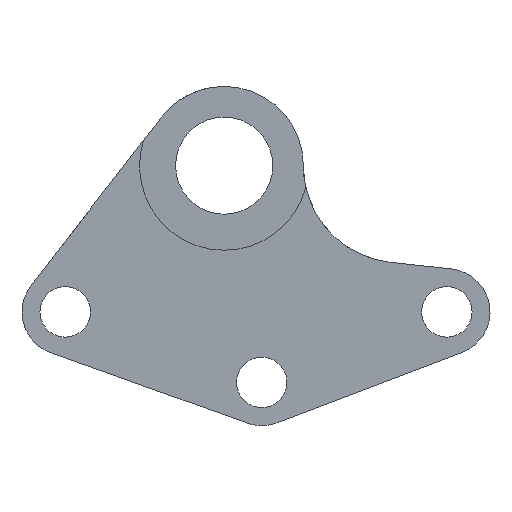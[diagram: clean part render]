
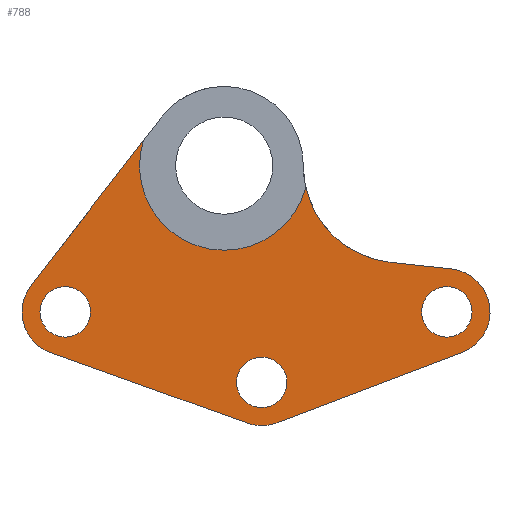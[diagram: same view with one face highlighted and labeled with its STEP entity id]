
A CAD part, front view. The second image highlights one B-rep face of the part: STEP entity #788.
In plain terms, the highlighted planar face has unit normal (0, -1, 0).
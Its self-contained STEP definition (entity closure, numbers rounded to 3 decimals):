
#2 = CARTESIAN_POINT ( 'NONE',  ( 5.224, 0., -30.099 ) ) ;
#7 = ORIENTED_EDGE ( 'NONE', *, *, #460, .F. ) ;
#17 = CARTESIAN_POINT ( 'NONE',  ( -26.817, 0., -16.638 ) ) ;
#23 = DIRECTION ( 'NONE',  ( 0., 1., 0. ) ) ;
#27 = VERTEX_POINT ( 'NONE', #341 ) ;
#28 = CARTESIAN_POINT ( 'NONE',  ( 30.925, 0., -20.314 ) ) ;
#29 = CARTESIAN_POINT ( 'NONE',  ( 24.5, 0., 0. ) ) ;
#31 = CIRCLE ( 'NONE', #698, 3.5 ) ;
#36 = DIRECTION ( 'NONE',  ( 0., 1., 0. ) ) ;
#38 = DIRECTION ( 'NONE',  ( 0.613, 0., 0.79 ) ) ;
#69 = ORIENTED_EDGE ( 'NONE', *, *, #720, .T. ) ;
#72 = CARTESIAN_POINT ( 'NONE',  ( 11.348, 0., -3.046 ) ) ;
#80 = DIRECTION ( 'NONE',  ( 0., 0., 1. ) ) ;
#84 = CARTESIAN_POINT ( 'NONE',  ( 3.2, 0., -35.747 ) ) ;
#87 = DIRECTION ( 'NONE',  ( 0., 1., 0. ) ) ;
#88 = ORIENTED_EDGE ( 'NONE', *, *, #198, .T. ) ;
#90 = FACE_BOUND ( 'NONE', #114, .T. ) ;
#95 = CARTESIAN_POINT ( 'NONE',  ( -8.693, 0., 6.74 ) ) ;
#105 = EDGE_CURVE ( 'NONE', #173, #820, #237, .T. ) ;
#106 = DIRECTION ( 'NONE',  ( 0., -1., 0. ) ) ;
#109 = CARTESIAN_POINT ( 'NONE',  ( -22.075, 0., -23.814 ) ) ;
#111 = EDGE_CURVE ( 'NONE', #480, #731, #779, .T. ) ;
#114 = EDGE_LOOP ( 'NONE', ( #445, #69 ) ) ;
#116 = EDGE_LOOP ( 'NONE', ( #594, #88 ) ) ;
#120 = CARTESIAN_POINT ( 'NONE',  ( 5.224, 0., -26.599 ) ) ;
#134 = CARTESIAN_POINT ( 'NONE',  ( 30.925, 0., -16.814 ) ) ;
#138 = FACE_BOUND ( 'NONE', #116, .T. ) ;
#141 = EDGE_CURVE ( 'NONE', #811, #153, #197, .T. ) ;
#146 = VERTEX_POINT ( 'NONE', #72 ) ;
#148 = CARTESIAN_POINT ( 'NONE',  ( 5.224, 0., -36.099 ) ) ;
#152 = CIRCLE ( 'NONE', #580, 6. ) ;
#153 = VERTEX_POINT ( 'NONE', #148 ) ;
#173 = VERTEX_POINT ( 'NONE', #633 ) ;
#174 = DIRECTION ( 'NONE',  ( 0., -1., 0. ) ) ;
#180 = AXIS2_PLACEMENT_3D ( 'NONE', #305, #740, #240 ) ;
#185 = EDGE_CURVE ( 'NONE', #219, #544, #152, .T. ) ;
#197 = CIRCLE ( 'NONE', #736, 6. ) ;
#198 = EDGE_CURVE ( 'NONE', #848, #27, #808, .T. ) ;
#211 = CARTESIAN_POINT ( 'NONE',  ( 5.224, 0., -30.099 ) ) ;
#212 = FACE_OUTER_BOUND ( 'NONE', #693, .T. ) ;
#214 = EDGE_CURVE ( 'NONE', #544, #811, #423, .T. ) ;
#219 = VERTEX_POINT ( 'NONE', #849 ) ;
#220 = DIRECTION ( 'NONE',  ( 0., 1., 0. ) ) ;
#222 = CARTESIAN_POINT ( 'NONE',  ( 7.359, 0., -35.706 ) ) ;
#224 = CARTESIAN_POINT ( 'NONE',  ( -11.224, 0., 3.475 ) ) ;
#227 = VERTEX_POINT ( 'NONE', #84 ) ;
#228 = DIRECTION ( 'NONE',  ( 0., 0., 1. ) ) ;
#233 = LINE ( 'NONE', #438, #735 ) ;
#237 = CIRCLE ( 'NONE', #837, 6. ) ;
#239 = CIRCLE ( 'NONE', #624, 3.5 ) ;
#240 = DIRECTION ( 'NONE',  ( 0., 0., -1. ) ) ;
#248 = AXIS2_PLACEMENT_3D ( 'NONE', #29, #87, #342 ) ;
#249 = DIRECTION ( 'NONE',  ( 0., 1., 0. ) ) ;
#262 = DIRECTION ( 'NONE',  ( 0., 1., 0. ) ) ;
#269 = CARTESIAN_POINT ( 'NONE',  ( 7.359, 0., -35.706 ) ) ;
#289 = CARTESIAN_POINT ( 'NONE',  ( 0., 0., -11.75 ) ) ;
#292 = CARTESIAN_POINT ( 'NONE',  ( -22.075, 0., -20.314 ) ) ;
#300 = EDGE_LOOP ( 'NONE', ( #311, #690 ) ) ;
#301 = EDGE_CURVE ( 'NONE', #227, #173, #233, .T. ) ;
#305 = CARTESIAN_POINT ( 'NONE',  ( 0., 0., 0. ) ) ;
#311 = ORIENTED_EDGE ( 'NONE', *, *, #867, .T. ) ;
#328 = AXIS2_PLACEMENT_3D ( 'NONE', #589, #174, #662 ) ;
#331 = ORIENTED_EDGE ( 'NONE', *, *, #349, .F. ) ;
#336 = EDGE_CURVE ( 'NONE', #701, #219, #598, .T. ) ;
#341 = CARTESIAN_POINT ( 'NONE',  ( 30.925, 0., -23.814 ) ) ;
#342 = DIRECTION ( 'NONE',  ( 0., 0., 1. ) ) ;
#349 = EDGE_CURVE ( 'NONE', #146, #701, #786, .T. ) ;
#365 = EDGE_CURVE ( 'NONE', #751, #782, #756, .T. ) ;
#367 = ORIENTED_EDGE ( 'NONE', *, *, #185, .F. ) ;
#368 = CARTESIAN_POINT ( 'NONE',  ( 23.039, 0., -13.421 ) ) ;
#380 = VERTEX_POINT ( 'NONE', #109 ) ;
#393 = DIRECTION ( 'NONE',  ( 0., 1., 0. ) ) ;
#407 = DIRECTION ( 'NONE',  ( 0., 1., 0. ) ) ;
#415 = DIRECTION ( 'NONE',  ( 0., 0., 1. ) ) ;
#421 = CARTESIAN_POINT ( 'NONE',  ( 5.224, 0., -30.099 ) ) ;
#423 = LINE ( 'NONE', #222, #827 ) ;
#434 = CIRCLE ( 'NONE', #844, 6. ) ;
#436 = DIRECTION ( 'NONE',  ( 0., 0., 1. ) ) ;
#438 = CARTESIAN_POINT ( 'NONE',  ( -24.1, 0., -25.963 ) ) ;
#443 = ORIENTED_EDGE ( 'NONE', *, *, #301, .F. ) ;
#445 = ORIENTED_EDGE ( 'NONE', *, *, #658, .T. ) ;
#454 = ORIENTED_EDGE ( 'NONE', *, *, #612, .F. ) ;
#455 = AXIS2_PLACEMENT_3D ( 'NONE', #513, #36, #436 ) ;
#457 = LINE ( 'NONE', #95, #597 ) ;
#460 = EDGE_CURVE ( 'NONE', #153, #227, #434, .T. ) ;
#463 = CARTESIAN_POINT ( 'NONE',  ( -22.075, 0., -20.314 ) ) ;
#464 = CARTESIAN_POINT ( 'NONE',  ( 33.059, 0., -25.922 ) ) ;
#475 = CARTESIAN_POINT ( 'NONE',  ( -22.075, 0., -16.814 ) ) ;
#480 = VERTEX_POINT ( 'NONE', #120 ) ;
#485 = VECTOR ( 'NONE', #515, 1000. ) ;
#486 = PLANE ( 'NONE',  #248 ) ;
#490 = ORIENTED_EDGE ( 'NONE', *, *, #696, .F. ) ;
#496 = DIRECTION ( 'NONE',  ( 0., 0., 1. ) ) ;
#499 = DIRECTION ( 'NONE',  ( 0., 1., 0. ) ) ;
#509 = CIRCLE ( 'NONE', #536, 3.5 ) ;
#513 = CARTESIAN_POINT ( 'NONE',  ( -22.075, 0., -20.314 ) ) ;
#515 = DIRECTION ( 'NONE',  ( 0.994, 0., -0.108 ) ) ;
#521 = CARTESIAN_POINT ( 'NONE',  ( 24.5, 0., 0. ) ) ;
#536 = AXIS2_PLACEMENT_3D ( 'NONE', #769, #262, #694 ) ;
#544 = VERTEX_POINT ( 'NONE', #464 ) ;
#559 = DIRECTION ( 'NONE',  ( 0., 1., 0. ) ) ;
#573 = ORIENTED_EDGE ( 'NONE', *, *, #141, .F. ) ;
#580 = AXIS2_PLACEMENT_3D ( 'NONE', #635, #220, #710 ) ;
#584 = DIRECTION ( 'NONE',  ( 0., 0., 1. ) ) ;
#589 = CARTESIAN_POINT ( 'NONE',  ( 0., 0., 0. ) ) ;
#594 = ORIENTED_EDGE ( 'NONE', *, *, #822, .T. ) ;
#597 = VECTOR ( 'NONE', #38, 1000. ) ;
#598 = LINE ( 'NONE', #860, #485 ) ;
#612 = EDGE_CURVE ( 'NONE', #782, #146, #745, .T. ) ;
#613 = ORIENTED_EDGE ( 'NONE', *, *, #336, .F. ) ;
#614 = AXIS2_PLACEMENT_3D ( 'NONE', #211, #559, #415 ) ;
#624 = AXIS2_PLACEMENT_3D ( 'NONE', #2, #407, #826 ) ;
#630 = AXIS2_PLACEMENT_3D ( 'NONE', #28, #499, #80 ) ;
#632 = ORIENTED_EDGE ( 'NONE', *, *, #105, .F. ) ;
#633 = CARTESIAN_POINT ( 'NONE',  ( -24.1, 0., -25.963 ) ) ;
#635 = CARTESIAN_POINT ( 'NONE',  ( 30.925, 0., -20.314 ) ) ;
#644 = CARTESIAN_POINT ( 'NONE',  ( 5.224, 0., -33.599 ) ) ;
#658 = EDGE_CURVE ( 'NONE', #380, #877, #706, .T. ) ;
#662 = DIRECTION ( 'NONE',  ( 0., 0., -1. ) ) ;
#672 = CARTESIAN_POINT ( 'NONE',  ( 5.224, 0., -30.099 ) ) ;
#677 = ORIENTED_EDGE ( 'NONE', *, *, #214, .F. ) ;
#690 = ORIENTED_EDGE ( 'NONE', *, *, #111, .T. ) ;
#693 = EDGE_LOOP ( 'NONE', ( #331, #454, #812, #490, #632, #443, #7, #573, #677, #367, #613 ) ) ;
#694 = DIRECTION ( 'NONE',  ( 0., 0., 1. ) ) ;
#696 = EDGE_CURVE ( 'NONE', #820, #751, #457, .T. ) ;
#698 = AXIS2_PLACEMENT_3D ( 'NONE', #292, #725, #228 ) ;
#701 = VERTEX_POINT ( 'NONE', #368 ) ;
#706 = CIRCLE ( 'NONE', #455, 3.5 ) ;
#710 = DIRECTION ( 'NONE',  ( 0., 0., 1. ) ) ;
#717 = DIRECTION ( 'NONE',  ( -0.935, 0., -0.356 ) ) ;
#720 = EDGE_CURVE ( 'NONE', #877, #380, #31, .T. ) ;
#725 = DIRECTION ( 'NONE',  ( 0., 1., 0. ) ) ;
#731 = VERTEX_POINT ( 'NONE', #644 ) ;
#735 = VECTOR ( 'NONE', #855, 1000. ) ;
#736 = AXIS2_PLACEMENT_3D ( 'NONE', #421, #23, #496 ) ;
#737 = AXIS2_PLACEMENT_3D ( 'NONE', #521, #106, #584 ) ;
#740 = DIRECTION ( 'NONE',  ( 0., -1., 0. ) ) ;
#745 = CIRCLE ( 'NONE', #180, 11.75 ) ;
#751 = VERTEX_POINT ( 'NONE', #224 ) ;
#752 = DIRECTION ( 'NONE',  ( 0., 0., 1. ) ) ;
#756 = CIRCLE ( 'NONE', #328, 11.75 ) ;
#769 = CARTESIAN_POINT ( 'NONE',  ( 30.925, 0., -20.314 ) ) ;
#775 = FACE_BOUND ( 'NONE', #300, .T. ) ;
#779 = CIRCLE ( 'NONE', #614, 3.5 ) ;
#782 = VERTEX_POINT ( 'NONE', #289 ) ;
#786 = CIRCLE ( 'NONE', #737, 13.5 ) ;
#788 = ADVANCED_FACE ( 'NONE', ( #212, #90, #775, #138 ), #486, .F. ) ;
#808 = CIRCLE ( 'NONE', #630, 3.5 ) ;
#811 = VERTEX_POINT ( 'NONE', #269 ) ;
#812 = ORIENTED_EDGE ( 'NONE', *, *, #365, .F. ) ;
#820 = VERTEX_POINT ( 'NONE', #17 ) ;
#822 = EDGE_CURVE ( 'NONE', #27, #848, #509, .T. ) ;
#826 = DIRECTION ( 'NONE',  ( 0., 0., 1. ) ) ;
#827 = VECTOR ( 'NONE', #717, 1000. ) ;
#837 = AXIS2_PLACEMENT_3D ( 'NONE', #463, #393, #875 ) ;
#844 = AXIS2_PLACEMENT_3D ( 'NONE', #672, #249, #752 ) ;
#848 = VERTEX_POINT ( 'NONE', #134 ) ;
#849 = CARTESIAN_POINT ( 'NONE',  ( 31.574, 0., -14.35 ) ) ;
#855 = DIRECTION ( 'NONE',  ( -0.941, 0., 0.337 ) ) ;
#860 = CARTESIAN_POINT ( 'NONE',  ( 31.574, 0., -14.35 ) ) ;
#867 = EDGE_CURVE ( 'NONE', #731, #480, #239, .T. ) ;
#875 = DIRECTION ( 'NONE',  ( 0., 0., 1. ) ) ;
#877 = VERTEX_POINT ( 'NONE', #475 ) ;
